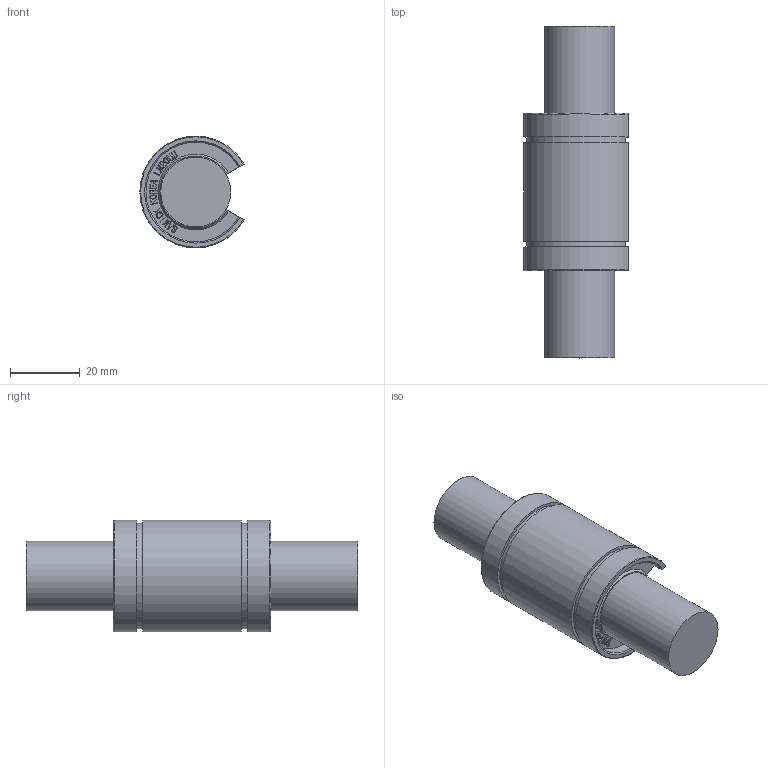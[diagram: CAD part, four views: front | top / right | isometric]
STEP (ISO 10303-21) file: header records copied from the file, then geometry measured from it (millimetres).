
FILE_DESCRIPTION(/* description */ (''),/* implementation_level */ '2;1');
FILE_NAME(/* name */ 'W:\(01) 2024년 홈페이지 CAD파일 최신화\LME_OP\IPT\LME20UUOP.stp',/* time_stamp */ '2025-01-25T10:18:47+09:00',/* author */ ('서우현'),/* organization */ (''),/* preprocessor_version */ 'ST-DEVELOPER v17.2',/* originating_system */ 'Autodesk Inventor 2019',/* authorisation */ '');
FILE_SCHEMA (('AUTOMOTIVE_DESIGN { 1 0 10303 214 3 1 1 }'));
Length unit declared in the file: millimetre
Products named in the file (1): LM5
Bounding box: 29.86 x 95 x 32 mm (x, y, z)
Volume: 46333.8 mm3; surface area: 10320.6 mm2
Topology: 1 solids, 1 shells, 834 faces, 2364 edges, 1576 vertices
Faces by surface type: bspline 592, plane 228, cylinder 8, cone 4, torus 2
Full cylindrical faces by diameter (mm): 20 x1
Entity records: 28530 total; most frequent: CARTESIAN_POINT 10103, ORIENTED_EDGE 4728, EDGE_CURVE 2364, DIRECTION 1698, VERTEX_POINT 1576, B_SPLINE_CURVE_WITH_KNOTS 1184, LINE 1148, VECTOR 1148
